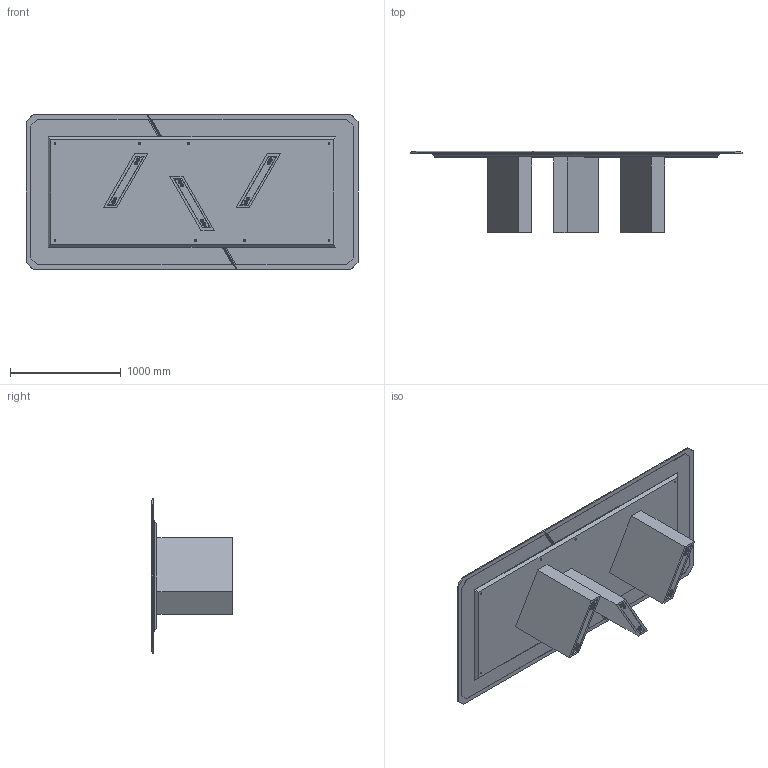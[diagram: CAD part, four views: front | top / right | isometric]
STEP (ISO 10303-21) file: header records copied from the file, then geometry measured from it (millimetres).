
FILE_DESCRIPTION (( 'STEP AP214' ), '1' );
FILE_NAME ('PlatiumClass_300 x140.STEP', '2026-05-05T09:33:06', ( '' ), ( '' ), 'SwSTEP 2.0', 'SolidWorks 2025', '' );
FILE_SCHEMA (( 'AUTOMOTIVE_DESIGN' ));
Length unit declared in the file: millimetre
Products named in the file (12): PlatinumClass_tavolo_300 x 120_PlatiumClass_PIANO_300 x140 OPZ40; PlatiumClass_PIANO_(260 280 300) x (120 e 140)_Buratti_TAVOLO_300 x 140 OPZ40; PlatinumClass_Assieme_SOTTOPIANO_GOMMINA_PlatiumClass_300 x 140; PlatiumClass_300 x140; PlatiumClass_SOTTOPIANO_SOTTOPIANO_300 x 140; PlatiumClass_DISTANZIALE_TAVOLO_Piatto_Metallo_Piano_140_xD; PlatiumClass_PIASTRINA_GAMBA; PlatiumClass_LAMIERA_Lamiera 300 x140 OPZ 40; PlatiumClass_GOMMINA_SOTTOPIANO_PlatiumClass_300 x 140_GOMMINA_SOTTOPIANO; PlatiumClass_RIVESTIMENTO_UNICO_GAMBA_MARMO; PlatinumClass_ASSIEME_GAMBA_UNICO_MARMO; PlatiumClass_GAMBA_h70
Assembly tree (18 placements, depth 3):
  PlatiumClass_300 x140
    PlatinumClass_Assieme_SOTTOPIANO_GOMMINA_PlatiumClass_300 x 140
      PlatiumClass_SOTTOPIANO_SOTTOPIANO_300 x 140
      PlatiumClass_GOMMINA_SOTTOPIANO_PlatiumClass_300 x 140_GOMMINA_SOTTOPIANO
    PlatinumClass_ASSIEME_GAMBA_UNICO_MARMO  x3
      PlatiumClass_GAMBA_h70
      PlatiumClass_RIVESTIMENTO_UNICO_GAMBA_MARMO
      PlatiumClass_PIASTRINA_GAMBA
    PlatinumClass_tavolo_300 x 120_PlatiumClass_PIANO_300 x140 OPZ40
      PlatiumClass_PIANO_(260 280 300) x (120 e 140)_Buratti_TAVOLO_300 x 140 OPZ40  x2
      PlatiumClass_DISTANZIALE_TAVOLO_Piatto_Metallo_Piano_140_xD
      PlatiumClass_LAMIERA_Lamiera 300 x140 OPZ 40  x2
Bounding box: 3000 x 736.5 x 1400 mm (x, y, z)
Volume: 277268780.1 mm3; surface area: 29864988.6 mm2
Topology: 25 solids, 25 shells, 612 faces, 1514 edges, 996 vertices
Faces by surface type: plane 340, cylinder 256, cone 16
Entity records: 9209 total; most frequent: CARTESIAN_POINT 1822, DIRECTION 1521, ORIENTED_EDGE 1390, EDGE_CURVE 695, AXIS2_PLACEMENT_3D 553, VERTEX_POINT 462, VECTOR 415, LINE 415
